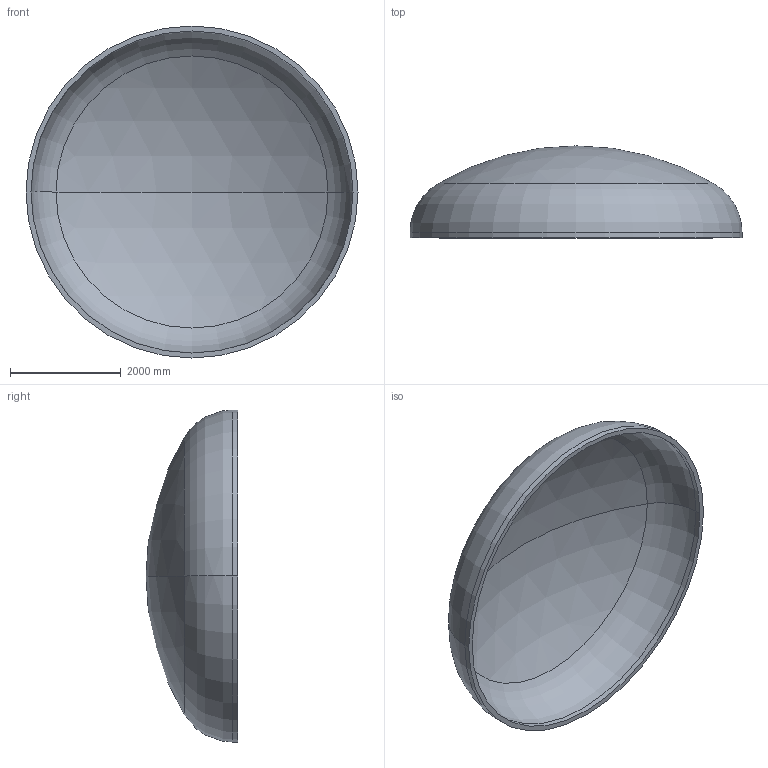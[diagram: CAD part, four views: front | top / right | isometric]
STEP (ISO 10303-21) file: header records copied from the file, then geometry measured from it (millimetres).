
FILE_DESCRIPTION (( 'STEP AP203' ), '1' );
FILE_NAME ('DIN 28013 Korbbogenform_-_Boden DIN 28013 - 6000 x 100 - I - s=90.step', '2016-07-04T10:38:30', ( '' ), ( '' ), 'SwSTEP 2.0', 'SolidWorks 2013', '' );
FILE_SCHEMA (( 'CONFIG_CONTROL_DESIGN' ));
Length unit declared in the file: millimetre
Products named in the file (1): DIN 28013 Korbbogenform_-_Boden DIN 28013 - 6000 x 100 - I - s=90
Bounding box: 6000 x 1662.03 x 6000 mm (x, y, z)
Volume: 3623071693 mm3; surface area: 82200651.8 mm2
Topology: 1 solids, 1 shells, 13 faces, 24 edges, 14 vertices
Faces by surface type: torus 4, cylinder 4, sphere 4, plane 1
Entity records: 407 total; most frequent: DIRECTION 72, CARTESIAN_POINT 52, ORIENTED_EDGE 48, AXIS2_PLACEMENT_3D 34, EDGE_CURVE 24, CIRCLE 20, EDGE_LOOP 14, VERTEX_POINT 14
